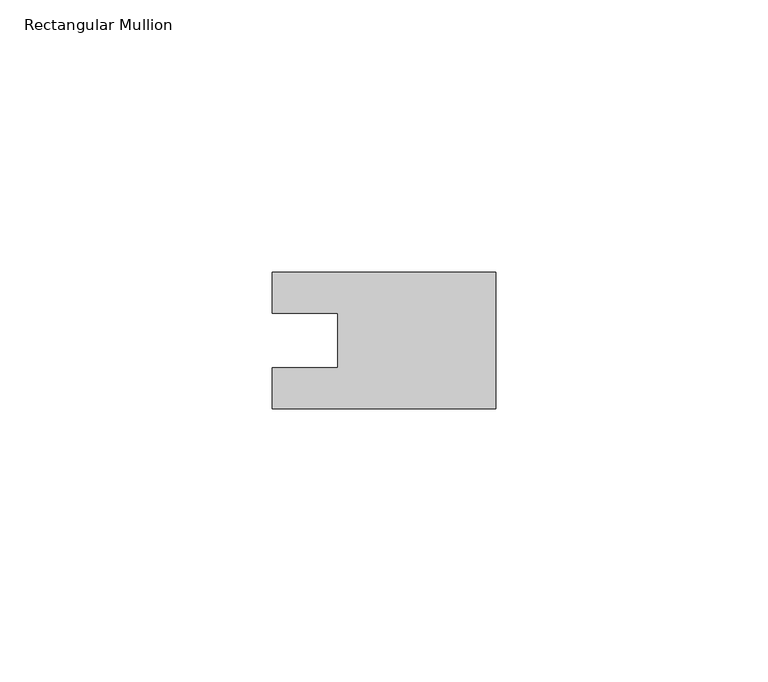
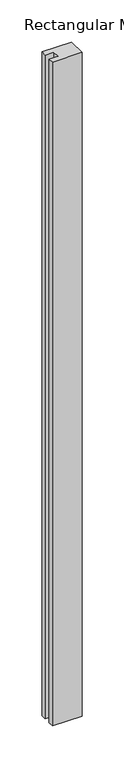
"""IFC4 building model written with IfcOpenShell, lengths in millimetres: member geometry, Rectangular Mullion : 22_IM_CF_DET1_boven_40mm."""

from ifc_helpers import new_model, si_unit, frame, origin, place, context, project, spatial, polyline, outline, extrude, source, transform, mapped, element, save


def rectangular_mullion_41da4477(model_context):
    return source(origin(), model_context, "Body", "SweptSolid", [
        extrude(outline(polyline([(0.0, 12.5), (0.0, -12.5), (-41.0, -12.5), (-41.0, -5.0), (-29.0, -5.0), (-29.0, 5.0), (-41.0, 5.0), (-41.0, 12.5), (0.0, 12.5)])), frame((0.0, 0.0, -964.0), z_axis=(0.0, 0.0, 1.0), x_axis=(1.0, 0.0, 0.0)), (0.0, 0.0, 1.0), 964.0),
    ])


if __name__ == "__main__":
    model = new_model("IFC4")
    model_context = context("Model", 3, world=origin())
    ifc_project = project(units=[si_unit("LENGTHUNIT", "METRE", prefix="MILLI")], contexts=[model_context])
    site = spatial("IfcSite", under=ifc_project)
    building = spatial("IfcBuilding", under=site)
    placement = place(None, origin())
    rectangular_mullion_shape = rectangular_mullion_41da4477(model_context)
    element("IfcMember", 1, ObjectType="Rectangular Mullion : 22_IM_CF_DET1_boven_40mm", at=placement, inside=building, context=model_context, shape_type="MappedRepresentation", body=[
        mapped(rectangular_mullion_shape, transform((0.0, 0.0, 0.0), x_axis=(1.0, 0.0, 0.0), y_axis=(0.0, 1.0, 0.0), z_axis=(0.0, 0.0, 1.0))),
    ])
    save(model, "model.ifc")
